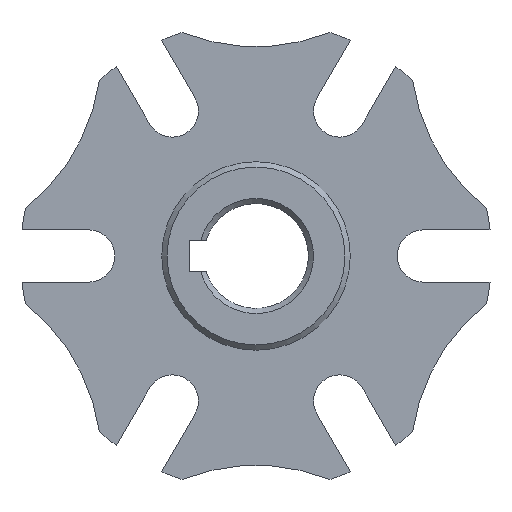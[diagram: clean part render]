
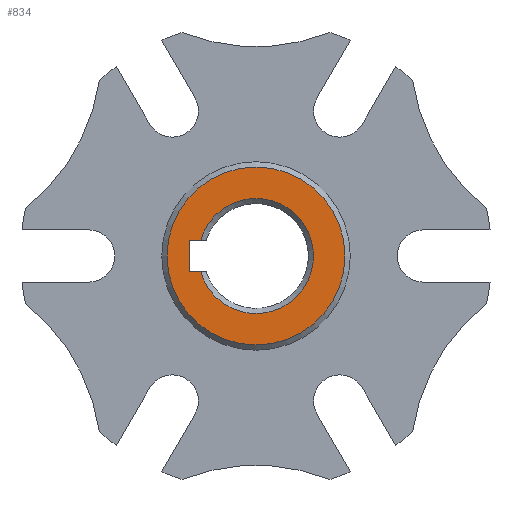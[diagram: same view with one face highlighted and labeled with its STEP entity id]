
A CAD part, front view. The second image highlights one B-rep face of the part: STEP entity #834.
In plain terms, the highlighted planar face has unit normal (0, -1, 0).
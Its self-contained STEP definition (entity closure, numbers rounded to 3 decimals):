
#43=FACE_BOUND('',#112,.T.);
#46=PLANE('',#906);
#65=FACE_OUTER_BOUND('',#111,.T.);
#111=EDGE_LOOP('',(#578));
#112=EDGE_LOOP('',(#579,#580,#581,#582));
#160=LINE('',#1293,#232);
#161=LINE('',#1295,#233);
#162=LINE('',#1296,#234);
#232=VECTOR('',#1018,10.);
#233=VECTOR('',#1019,10.);
#234=VECTOR('',#1020,10.);
#305=CIRCLE('',#905,17.);
#306=CIRCLE('',#907,11.);
#360=VERTEX_POINT('',#1285);
#361=VERTEX_POINT('',#1289);
#362=VERTEX_POINT('',#1290);
#363=VERTEX_POINT('',#1292);
#364=VERTEX_POINT('',#1294);
#447=EDGE_CURVE('',#360,#360,#305,.T.);
#448=EDGE_CURVE('',#361,#362,#306,.T.);
#449=EDGE_CURVE('',#361,#363,#160,.T.);
#450=EDGE_CURVE('',#363,#364,#161,.T.);
#451=EDGE_CURVE('',#364,#362,#162,.T.);
#578=ORIENTED_EDGE('',*,*,#447,.F.);
#579=ORIENTED_EDGE('',*,*,#448,.F.);
#580=ORIENTED_EDGE('',*,*,#449,.T.);
#581=ORIENTED_EDGE('',*,*,#450,.T.);
#582=ORIENTED_EDGE('',*,*,#451,.T.);
#834=ADVANCED_FACE('',(#65,#43),#46,.T.);
#905=AXIS2_PLACEMENT_3D('',#1287,#1012,#1013);
#906=AXIS2_PLACEMENT_3D('',#1288,#1014,#1015);
#907=AXIS2_PLACEMENT_3D('',#1291,#1016,#1017);
#1012=DIRECTION('center_axis',(0.,1.,0.));
#1013=DIRECTION('ref_axis',(-1.,0.,0.));
#1014=DIRECTION('center_axis',(0.,-1.,0.));
#1015=DIRECTION('ref_axis',(0.,0.,-1.));
#1016=DIRECTION('center_axis',(0.,-1.,0.));
#1017=DIRECTION('ref_axis',(1.,0.,0.));
#1018=DIRECTION('',(-1.,0.,0.));
#1019=DIRECTION('',(0.,0.,1.));
#1020=DIRECTION('',(1.,0.,0.));
#1285=CARTESIAN_POINT('',(17.,0.,0.));
#1287=CARTESIAN_POINT('Origin',(0.,0.,0.));
#1288=CARTESIAN_POINT('Origin',(18.,0.,0.));
#1289=CARTESIAN_POINT('',(-10.583,0.,-3.));
#1290=CARTESIAN_POINT('',(-10.583,0.,3.));
#1291=CARTESIAN_POINT('Origin',(0.,0.,0.));
#1292=CARTESIAN_POINT('',(-12.8,0.,-3.));
#1293=CARTESIAN_POINT('',(2.6,0.,-3.));
#1294=CARTESIAN_POINT('',(-12.8,0.,3.));
#1295=CARTESIAN_POINT('',(-12.8,0.,1.5));
#1296=CARTESIAN_POINT('',(4.23,0.,3.));
